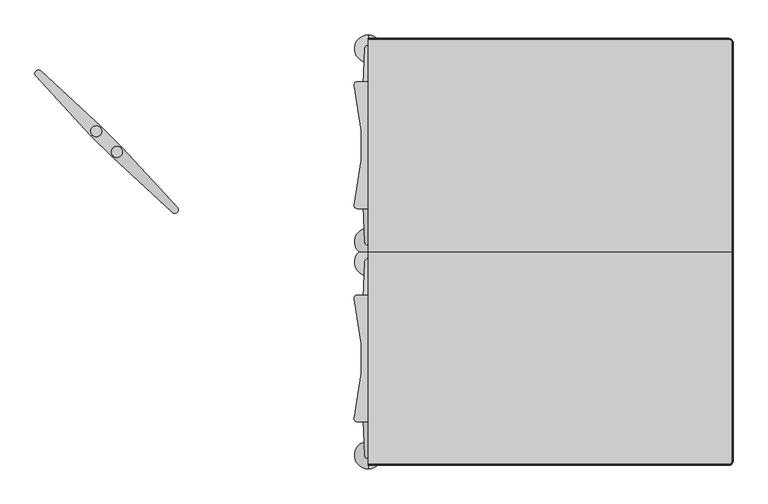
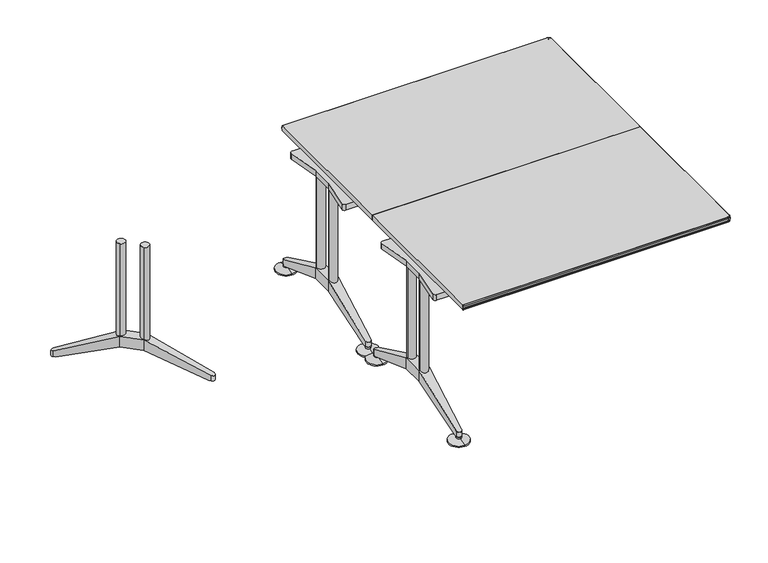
"""IFC4 building model written with IfcOpenShell, lengths in millimetres: furniture geometry, Furniture_Wilkhahn_620-46_Logon Table-Rectangle : Logon 620/46_2650L x 1550W x 730H."""

from ifc_helpers import new_model, si_unit, point, frame, frame_2d, origin, place, context, project, spatial, polyline, circle_curve, ellipse_curve, trimmed, segment, composite_curve, outline, extrude, source, transform, mapped, element, save
from ifc_brep_helpers import plane_surface, cylinder_surface, revolved_surface, advanced_brep


def furniture_0d1d803a(model_context):
    return source(origin(), model_context, "Body", "SolidModel", [
        advanced_brep(
        [(-895.079077, 406.3855705, 140.0), (-970.0323958, 481.3388893, 140.0), (-970.0323958, 481.3388893, 195.0), (-895.079077, 406.3855705, 195.0), (-930.4344161, 371.0302315, 195.0), (-1005.3877349, 445.9835503, 195.0), (-1005.3877349, 445.9835503, 140.0), (-930.4344161, 371.0302315, 140.0), (-720.7378823, 177.6069939, 27.0), (-701.6558394, 196.6890367, 27.0), (-693.1903453, 187.5113144, 27.0), (-693.5536444, 169.5047988, 27.0), (-711.5601599, 169.1414998, 27.0), (-711.5601599, 169.1414998, 56.4159205), (-693.5536444, 169.5047988, 50.6048844), (-693.1903453, 187.5113144, 56.4159205), (-1207.2764666, 664.8578064, 56.4159205), (-1207.2764666, 664.8578064, 27.0), (-1198.8109725, 655.6800841, 27.0), (-1188.906652, 683.227621, 27.0), (-1188.906652, 683.227621, 56.4159205), (-1179.7289296, 674.7621269, 27.0), (-1206.9131675, 682.864322, 27.0), (-1206.9131675, 682.864322, 50.6048844)],
        [
            (0, 1),
            (1, 2),
            (2, 3),
            (3, 0),
            (4, 5),
            (5, 6),
            (6, 7),
            (7, 4),
            (8, 9),
            (9, 10),
            (10, 11, circle_curve(frame((-702.7460326, 178.697187, 27.0), z_axis=(0.0, 0.0, -1.0), x_axis=(-0.707106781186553, -0.7071067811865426, 0.0)), 13.0)),
            (11, 12, circle_curve(frame((-702.7460326, 178.697187, 27.0), z_axis=(0.0, 0.0, -1.0), x_axis=(-0.707106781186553, -0.7071067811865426, 0.0)), 13.0)),
            (12, 8),
            (3, 4),
            (4, 13),
            (13, 14, ellipse_curve(frame((-702.7460326, 178.697187, 56.6601634), z_axis=(0.29856403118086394, -0.2985640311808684, 0.9064871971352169), x_axis=(0.6409832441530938, -0.6409832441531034, -0.42223330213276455)), 14.341074, 13.0)),
            (14, 15, ellipse_curve(frame((-702.7460326, 178.697187, 56.6601634), z_axis=(0.29856403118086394, -0.2985640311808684, 0.9064871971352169), x_axis=(0.6409832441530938, -0.6409832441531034, -0.42223330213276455)), 14.341074, 13.0)),
            (15, 3),
            (7, 0),
            (0, 9),
            (8, 7),
            (16, 17),
            (17, 18),
            (18, 6),
            (5, 16),
            (19, 20),
            (20, 2),
            (1, 21),
            (21, 19),
            (2, 5),
            (6, 1),
            (19, 22, circle_curve(frame((-1197.7207794, 673.6719338, 27.0), z_axis=(0.0, 0.0, 1.0), x_axis=(-0.707106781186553, -0.7071067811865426, 0.0)), 13.0)),
            (22, 17, circle_curve(frame((-1197.7207794, 673.6719338, 27.0), z_axis=(0.0, 0.0, 1.0), x_axis=(-0.707106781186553, -0.7071067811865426, 0.0)), 13.0)),
            (16, 23, ellipse_curve(frame((-1197.7207794, 673.6719338, 56.6601634), z_axis=(0.2985640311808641, -0.2985640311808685, -0.9064871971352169), x_axis=(-0.6409832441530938, 0.6409832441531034, -0.4222333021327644)), 14.341074, 13.0)),
            (23, 20, ellipse_curve(frame((-1197.7207794, 673.6719338, 56.6601634), z_axis=(0.2985640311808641, -0.2985640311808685, -0.9064871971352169), x_axis=(-0.6409832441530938, 0.6409832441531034, -0.4222333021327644)), 14.341074, 13.0)),
            (15, 10),
            (13, 12),
            (21, 18),
        ],
        [
            plane_surface(frame((-687.7175668, 199.0240602, 27.0), z_axis=(0.7071067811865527, 0.7071067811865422, 0.0), x_axis=(-0.7071067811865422, 0.7071067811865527, 0.0))),
            plane_surface(frame((-723.0729058, 163.6687212, 27.0), z_axis=(-0.7071067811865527, -0.7071067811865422, 0.0), x_axis=(0.7071067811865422, -0.7071067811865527, 0.0))),
            plane_surface(frame((-728.8745304, 169.4703458, 27.0), z_axis=(0.0, 0.0, -0.9999999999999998), x_axis=(0.7071067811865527, 0.7071067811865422, 0.0))),
            plane_surface(frame((-711.2313139, 151.8271293, 50.6048844), z_axis=(0.29856403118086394, -0.2985640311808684, 0.9064871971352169), x_axis=(0.7071067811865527, 0.7071067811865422, 0.0))),
            plane_surface(frame((-930.4344161, 371.0302315, 140.0), z_axis=(-0.2605848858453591, 0.26058488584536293, -0.9296187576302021), x_axis=(0.7071067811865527, 0.7071067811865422, 0.0))),
            plane_surface(frame((-1005.3877349, 445.9835503, 195.0), z_axis=(-0.7350528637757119, -0.6780097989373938, 0.0), x_axis=(0.0, 0.0, -1.0))),
            plane_surface(frame((-1188.906652, 683.227621, 195.0), z_axis=(0.6780097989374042, 0.7350528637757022, 0.0), x_axis=(0.0, 0.0, -1.0))),
            plane_surface(frame((-930.4344161, 371.0302315, 195.0), z_axis=(0.0, 0.0, 0.9999999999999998), x_axis=(0.7071067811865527, 0.7071067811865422, 0.0))),
            plane_surface(frame((-1005.3877349, 445.9835503, 140.0), z_axis=(0.0, 0.0, -0.9999999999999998), x_axis=(0.7071067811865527, 0.7071067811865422, 0.0))),
            cylinder_surface(frame((-1197.7207794, 673.6719338, 0.0), z_axis=(0.0, 0.0, -1.0), x_axis=(-0.707106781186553, -0.7071067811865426, 0.0)), 13.0),
            plane_surface(frame((-895.079077, 406.3855705, 195.0), z_axis=(0.735052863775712, 0.6780097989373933, 0.0), x_axis=(0.0, 0.0, -1.0))),
            cylinder_surface(frame((-702.7460326, 178.697187, -14.190167), z_axis=(0.0, 0.0, -1.0), x_axis=(-0.707106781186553, -0.7071067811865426, 0.0)), 13.0),
            plane_surface(frame((-711.5601599, 169.1414998, 195.0), z_axis=(-0.6780097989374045, -0.735052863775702, 0.0), x_axis=(0.0, 0.0, -1.0))),
            plane_surface(frame((-1005.3877349, 445.9835503, 195.0), z_axis=(-0.2985640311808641, 0.2985640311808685, 0.9064871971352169), x_axis=(0.7071067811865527, 0.7071067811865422, 0.0))),
            plane_surface(frame((-1224.5908371, 665.1866524, 27.0), z_axis=(0.0, 0.0, -0.9999999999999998), x_axis=(0.7071067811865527, 0.7071067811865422, 0.0))),
            plane_surface(frame((-1206.9476206, 647.543436, 27.0), z_axis=(0.26058488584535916, -0.26058488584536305, -0.9296187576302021), x_axis=(0.7071067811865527, 0.7071067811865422, 0.0))),
        ],
        [
            (0, [[1, 2, 3, 4]]),
            (1, [[5, 6, 7, 8]]),
            (2, [[9, 10, 11, 12, 13]]),
            (3, [[14, 15, 16, 17, 18]]),
            (4, [[19, 20, -9, 21]]),
            (5, [[22, 23, 24, -6, 25]]),
            (6, [[26, 27, -2, 28, 29]]),
            (7, [[-3, 30, -5, -14]]),
            (8, [[-1, -19, -7, 31]]),
            (9, [[-26, 32, 33, -22, 34, 35]]),
            (10, [[36, -10, -20, -4, -18]]),
            (11, [[-36, -17, -16, 37, -12, -11]]),
            (12, [[-37, -15, -8, -21, -13]]),
            (13, [[-30, -27, -35, -34, -25]]),
            (14, [[38, -23, -33, -32, -29]]),
            (15, [[-31, -24, -38, -28]]),
        ],
    ),
        extrude(outline(composite_curve([segment(trimmed(circle_curve(frame_2d((-987.7100654, 463.6612198)), 20.0), [point((-973.5679298, 477.8033554))], [point((-1001.852201, 449.5190842))], False, "CARTESIAN"), True, "CONTINUOUS"), segment(trimmed(circle_curve(frame_2d((-987.7100654, 463.6612198)), 20.0), [point((-1001.852201, 449.5190842))], [point((-973.5679298, 477.8033554))], False, "CARTESIAN"), True, "CONTINUOUS")], self_intersect=False)), frame((0.0, 0.0, 140.0), z_axis=(0.0, 0.0, 1.0), x_axis=(1.0, 0.0, 0.0)), (0.0, 0.0, 1.0), 535.0),
        extrude(outline(composite_curve([segment(trimmed(circle_curve(frame_2d((-912.7567466, 388.707901)), 20.0), [point((-898.6146109, 402.8500366))], [point((-926.8988822, 374.5657654))], False, "CARTESIAN"), True, "CONTINUOUS"), segment(trimmed(circle_curve(frame_2d((-912.7567466, 388.707901)), 20.0), [point((-926.8988822, 374.5657654))], [point((-898.6146109, 402.8500366))], False, "CARTESIAN"), True, "CONTINUOUS")], self_intersect=False)), frame((0.0, 0.0, 140.0), z_axis=(0.0, 0.0, 1.0), x_axis=(1.0, 0.0, 0.0)), (0.0, 0.0, 1.0), 535.0),
        advanced_brep(
        [(0.0, 62.9267924, 0.0), (0.0, 12.9267924, 0.0), (0.0, 112.9267924, 0.0), (0.0, 12.9267924, 6.0), (0.0, 112.9267924, 6.0), (0.0, 50.4511544, 17.0), (0.0, 75.4024304, 17.0), (0.0, 50.4511544, 27.0), (0.0, 75.4024304, 27.0), (0.0, 62.9267924, 27.0)],
        [
            (0, 1),
            (1, 2, circle_curve(frame((0.0, 62.9267924, 0.0), z_axis=(0.0, 0.0, -1.0), x_axis=(0.0, -1.0000000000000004, 0.0)), 50.0)),
            (2, 0),
            (2, 1, circle_curve(frame((0.0, 62.9267924, 0.0), z_axis=(0.0, 0.0, -1.0), x_axis=(0.0, -1.0000000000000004, 0.0)), 50.0)),
            (1, 3),
            (3, 4, circle_curve(frame((0.0, 62.9267924, 6.0), z_axis=(0.0, 0.0, -1.0), x_axis=(0.0, -1.0000000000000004, 0.0)), 50.0)),
            (4, 2),
            (4, 3, circle_curve(frame((0.0, 62.9267924, 6.0), z_axis=(0.0, 0.0, -1.0), x_axis=(0.0, -1.0000000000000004, 0.0)), 50.0)),
            (3, 5),
            (5, 6, circle_curve(frame((0.0, 62.9267924, 17.0), z_axis=(0.0, 0.0, -1.0), x_axis=(0.0, -1.0000000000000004, 0.0)), 12.475638)),
            (6, 4),
            (6, 5, circle_curve(frame((0.0, 62.9267924, 17.0), z_axis=(0.0, 0.0, -1.0), x_axis=(0.0, -1.0000000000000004, 0.0)), 12.475638)),
            (5, 7),
            (7, 8, circle_curve(frame((0.0, 62.9267924, 27.0), z_axis=(0.0, 0.0, -1.0), x_axis=(0.0, -1.0000000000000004, 0.0)), 12.475638)),
            (8, 6),
            (8, 7, circle_curve(frame((0.0, 62.9267924, 27.0), z_axis=(0.0, 0.0, -1.0), x_axis=(0.0, -1.0000000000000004, 0.0)), 12.475638)),
            (7, 9),
            (9, 8),
        ],
        [
            plane_surface(frame((0.0, 62.9267924, 0.0), z_axis=(0.0, 0.0, -1.0), x_axis=(0.0, -1.0, 0.0))),
            cylinder_surface(frame((0.0, 62.9267924, 27.0), z_axis=(0.0, 0.0, -1.0), x_axis=(0.0, -1.0000000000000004, 0.0)), 50.0),
            revolved_surface(polyline([(0.0, 50.4511544, 17.0), (0.0, 12.9267924, 6.0)]), (0.0, 62.9267924, 27.0), (0.0, 0.0, -1.0)),
            cylinder_surface(frame((0.0, 62.9267924, 27.0), z_axis=(0.0, 0.0, -1.0), x_axis=(0.0, -1.0000000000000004, 0.0)), 12.475638),
            plane_surface(frame((0.0, 62.9267924, 27.0), z_axis=(0.0, 0.0, 1.0), x_axis=(0.0, -1.0, 0.0))),
        ],
        [
            (0, [[1, 2, 3]]),
            (0, [[-3, 4, -1]]),
            (1, [[-2, 5, 6, 7]]),
            (1, [[-4, -7, 8, -5]]),
            (2, [[-6, 9, 10, 11]]),
            (2, [[-8, -11, 12, -9]]),
            (3, [[-10, 13, 14, 15]]),
            (3, [[-12, -15, 16, -13]]),
            (4, [[-14, 17, 18]]),
            (4, [[-16, -18, -17]]),
        ],
    ),
        advanced_brep(
        [(0.0, 713.9755164, 0.0), (0.0, 813.9755164, 0.0), (0.0, 763.9755164, 0.0), (0.0, 713.9755164, 6.0), (0.0, 813.9755164, 6.0), (0.0, 751.4998784, 17.0), (0.0, 776.4511544, 17.0), (0.0, 751.4998784, 27.0), (0.0, 776.4511544, 27.0), (0.0, 763.9755164, 27.0)],
        [
            (0, 1, circle_curve(frame((0.0, 763.9755164, 0.0), z_axis=(0.0, 0.0, -1.0), x_axis=(0.0, 1.0000000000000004, 0.0)), 50.0)),
            (1, 2),
            (2, 0),
            (1, 0, circle_curve(frame((0.0, 763.9755164, 0.0), z_axis=(0.0, 0.0, -1.0), x_axis=(0.0, 1.0000000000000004, 0.0)), 50.0)),
            (3, 4, circle_curve(frame((0.0, 763.9755164, 6.0), z_axis=(0.0, 0.0, -1.0), x_axis=(0.0, 1.0000000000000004, 0.0)), 50.0)),
            (4, 1),
            (0, 3),
            (4, 3, circle_curve(frame((0.0, 763.9755164, 6.0), z_axis=(0.0, 0.0, -1.0), x_axis=(0.0, 1.0000000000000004, 0.0)), 50.0)),
            (5, 6, circle_curve(frame((0.0, 763.9755164, 17.0), z_axis=(0.0, 0.0, -1.0), x_axis=(0.0, 1.0000000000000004, 0.0)), 12.475638)),
            (6, 4),
            (3, 5),
            (6, 5, circle_curve(frame((0.0, 763.9755164, 17.0), z_axis=(0.0, 0.0, -1.0), x_axis=(0.0, 1.0000000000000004, 0.0)), 12.475638)),
            (7, 8, circle_curve(frame((0.0, 763.9755164, 27.0), z_axis=(0.0, 0.0, -1.0), x_axis=(0.0, 1.0000000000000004, 0.0)), 12.475638)),
            (8, 6),
            (5, 7),
            (8, 7, circle_curve(frame((0.0, 763.9755164, 27.0), z_axis=(0.0, 0.0, -1.0), x_axis=(0.0, 1.0000000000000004, 0.0)), 12.475638)),
            (9, 8),
            (7, 9),
        ],
        [
            plane_surface(frame((0.0, 763.9755164, 0.0), z_axis=(0.0, 0.0, -1.0), x_axis=(0.0, 1.0, 0.0))),
            cylinder_surface(frame((0.0, 763.9755164, 27.0), z_axis=(0.0, 0.0, 1.0), x_axis=(0.0, 1.0000000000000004, 0.0)), 50.0),
            revolved_surface(polyline([(0.0, 813.9755164, 6.0), (0.0, 776.4511544, 17.0)]), (0.0, 763.9755164, 27.0), (0.0, 0.0, 1.0)),
            cylinder_surface(frame((0.0, 763.9755164, 27.0), z_axis=(0.0, 0.0, 1.0), x_axis=(0.0, 1.0000000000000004, 0.0)), 12.475638),
            plane_surface(frame((0.0, 763.9755164, 27.0), z_axis=(0.0, 0.0, 1.0), x_axis=(0.0, 1.0, 0.0))),
        ],
        [
            (0, [[1, 2, 3]]),
            (0, [[4, -3, -2]]),
            (1, [[5, 6, -1, 7]]),
            (1, [[8, -7, -4, -6]]),
            (2, [[9, 10, -5, 11]]),
            (2, [[12, -11, -8, -10]]),
            (3, [[13, 14, -9, 15]]),
            (3, [[16, -15, -12, -14]]),
            (4, [[17, -13, 18]]),
            (4, [[-18, -16, -17]]),
        ],
    ),
        extrude(outline(composite_curve([segment(polyline([(25.0, 360.4511544), (51.7160071, 197.3913867)]), True, "CONTINUOUS"), segment(trimmed(circle_curve(frame_2d((39.8739001, 195.4511544)), 12.0), [point((51.7160071, 197.3913867))], [point((39.8739001, 183.4511544))], False, "CARTESIAN"), True, "CONTINUOUS"), segment(polyline([(39.8739001, 183.4511544), (-39.8739001, 183.4511544)]), True, "CONTINUOUS"), segment(trimmed(circle_curve(frame_2d((-39.8739001, 195.4511544)), 12.0), [point((-39.8739001, 183.4511544))], [point((-51.7160071, 197.3913867))], False, "CARTESIAN"), True, "CONTINUOUS"), segment(polyline([(-51.7160071, 197.3913867), (-25.0, 360.4511544), (-25.0, 466.4511544), (-51.7160071, 629.5109222)]), True, "CONTINUOUS"), segment(trimmed(circle_curve(frame_2d((-39.8739001, 631.4511544)), 12.0), [point((-51.7160071, 629.5109222))], [point((-39.8739001, 643.4511544))], False, "CARTESIAN"), True, "CONTINUOUS"), segment(polyline([(-39.8739001, 643.4511544), (39.8739001, 643.4511544)]), True, "CONTINUOUS"), segment(trimmed(circle_curve(frame_2d((39.8739001, 631.4511544)), 12.0), [point((39.8739001, 643.4511544))], [point((51.7160071, 629.5109222))], False, "CARTESIAN"), True, "CONTINUOUS"), segment(polyline([(51.7160071, 629.5109222), (25.0, 466.4511544), (25.0, 360.4511544)]), True, "CONTINUOUS")], self_intersect=False)), frame((0.0, 0.0, 675.0), z_axis=(0.0, 0.0, 1.0), x_axis=(1.0, 0.0, 0.0)), (0.0, 0.0, 1.0), 29.0),
        advanced_brep(
        [(-25.0, 466.4511544, 140.0), (-25.0, 360.4511544, 140.0), (-25.0, 360.4511544, 195.0), (-25.0, 466.4511544, 195.0), (25.0, 466.4511544, 195.0), (25.0, 360.4511544, 195.0), (25.0, 360.4511544, 140.0), (25.0, 466.4511544, 140.0), (13.4930419, 751.4998784, 27.0), (-13.4930419, 751.4998784, 27.0), (-12.9894205, 763.9755164, 27.0), (0.0, 776.4511544, 27.0), (12.9894205, 763.9755164, 27.0), (12.9894205, 763.9755164, 56.4159205), (0.0, 776.4511544, 50.6048844), (-12.9894205, 763.9755164, 56.4159205), (12.9894205, 62.9267924, 56.4159205), (12.9894205, 62.9267924, 27.0), (13.4930419, 75.4024304, 27.0), (-12.9894205, 62.9267924, 27.0), (-12.9894205, 62.9267924, 56.4159205), (-13.4930419, 75.4024304, 27.0), (0.0, 50.4511544, 27.0), (0.0, 50.4511544, 50.6048844)],
        [
            (0, 1),
            (1, 2),
            (2, 3),
            (3, 0),
            (4, 5),
            (5, 6),
            (6, 7),
            (7, 4),
            (8, 9),
            (9, 10),
            (10, 11, circle_curve(frame((0.0, 763.4511544, 27.0), z_axis=(0.0, 0.0, -1.0), x_axis=(1.0000000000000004, 0.0, 0.0)), 13.0)),
            (11, 12, circle_curve(frame((0.0, 763.4511544, 27.0), z_axis=(0.0, 0.0, -1.0), x_axis=(1.0000000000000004, 0.0, 0.0)), 13.0)),
            (12, 8),
            (3, 4),
            (4, 13),
            (13, 14, ellipse_curve(frame((0.0, 763.4511544, 56.6601634), z_axis=(0.0, 0.42223330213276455, 0.9064871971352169), x_axis=(0.0, 0.9064871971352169, -0.42223330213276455)), 14.341074, 13.0)),
            (14, 15, ellipse_curve(frame((0.0, 763.4511544, 56.6601634), z_axis=(0.0, 0.42223330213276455, 0.9064871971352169), x_axis=(0.0, 0.9064871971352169, -0.42223330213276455)), 14.341074, 13.0)),
            (15, 3),
            (7, 0),
            (0, 9),
            (8, 7),
            (16, 17),
            (17, 18),
            (18, 6),
            (5, 16),
            (19, 20),
            (20, 2),
            (1, 21),
            (21, 19),
            (2, 5),
            (6, 1),
            (19, 22, circle_curve(frame((0.0, 63.4511544, 27.0), z_axis=(0.0, 0.0, 1.0), x_axis=(1.0000000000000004, 0.0, 0.0)), 13.0)),
            (22, 17, circle_curve(frame((0.0, 63.4511544, 27.0), z_axis=(0.0, 0.0, 1.0), x_axis=(1.0000000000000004, 0.0, 0.0)), 13.0)),
            (16, 23, ellipse_curve(frame((0.0, 63.4511544, 56.6601634), z_axis=(0.0, 0.42223330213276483, -0.906487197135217), x_axis=(0.0, -0.906487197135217, -0.42223330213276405)), 14.341074, 13.0)),
            (23, 20, ellipse_curve(frame((0.0, 63.4511544, 56.6601634), z_axis=(0.0, 0.42223330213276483, -0.906487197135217), x_axis=(0.0, -0.906487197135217, -0.42223330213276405)), 14.341074, 13.0)),
            (15, 10),
            (13, 12),
            (21, 18),
        ],
        [
            plane_surface(frame((-25.0, 759.7046146, 27.0), z_axis=(-1.0, 0.0, 0.0), x_axis=(0.0, -1.0, 0.0))),
            plane_surface(frame((25.0, 759.7046146, 27.0), z_axis=(1.0, 0.0, 0.0), x_axis=(0.0, 1.0, 0.0))),
            plane_surface(frame((25.0, 751.4998784, 27.0), z_axis=(0.0, 0.0, -1.0), x_axis=(-1.0, 0.0, 0.0))),
            plane_surface(frame((25.0, 776.4511544, 50.6048844), z_axis=(0.0, 0.42223330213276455, 0.9064871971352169), x_axis=(-1.0, 0.0, 0.0))),
            plane_surface(frame((25.0, 466.4511544, 140.0), z_axis=(0.0, -0.36852267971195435, -0.9296187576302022), x_axis=(-1.0, 0.0, 0.0))),
            plane_surface(frame((25.0, 360.4511544, 195.0), z_axis=(0.9991861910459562, -0.04033553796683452, 0.0), x_axis=(0.0, 0.0, -1.0))),
            plane_surface(frame((-12.9894205, 62.9267924, 195.0), z_axis=(-0.9991861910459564, -0.0403355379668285, 0.0), x_axis=(0.0, 0.0, -1.0))),
            plane_surface(frame((25.0, 466.4511544, 195.0), z_axis=(0.0, 0.0, 1.0), x_axis=(-1.0, 0.0, 0.0))),
            plane_surface(frame((25.0, 360.4511544, 140.0), z_axis=(0.0, 0.0, -1.0), x_axis=(-1.0, 0.0, 0.0))),
            cylinder_surface(frame((0.0, 63.4511544, 0.0), z_axis=(0.0, 0.0, -1.0), x_axis=(1.0000000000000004, 0.0, 0.0)), 13.0),
            plane_surface(frame((-25.0, 466.4511544, 195.0), z_axis=(-0.9991861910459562, 0.040335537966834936, 0.0), x_axis=(0.0, 0.0, -1.0))),
            cylinder_surface(frame((0.0, 763.4511544, -14.190167), z_axis=(0.0, 0.0, -1.0), x_axis=(1.0000000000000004, 0.0, 0.0)), 13.0),
            plane_surface(frame((12.9894205, 763.9755164, 195.0), z_axis=(0.9991861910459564, 0.04033553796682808, 0.0), x_axis=(0.0, 0.0, -1.0))),
            plane_surface(frame((25.0, 360.4511544, 195.0), z_axis=(0.0, -0.4222333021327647, 0.9064871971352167), x_axis=(-1.0, 0.0, 0.0))),
            plane_surface(frame((25.0, 50.4511544, 27.0), z_axis=(0.0, 0.0, -1.0), x_axis=(-1.0, 0.0, 0.0))),
            plane_surface(frame((25.0, 75.4024304, 27.0), z_axis=(0.0, 0.36852267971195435, -0.929618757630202), x_axis=(-1.0, 0.0, 0.0))),
        ],
        [
            (0, [[1, 2, 3, 4]]),
            (1, [[5, 6, 7, 8]]),
            (2, [[9, 10, 11, 12, 13]]),
            (3, [[14, 15, 16, 17, 18]]),
            (4, [[19, 20, -9, 21]]),
            (5, [[22, 23, 24, -6, 25]]),
            (6, [[26, 27, -2, 28, 29]]),
            (7, [[-3, 30, -5, -14]]),
            (8, [[-1, -19, -7, 31]]),
            (9, [[-26, 32, 33, -22, 34, 35]]),
            (10, [[36, -10, -20, -4, -18]]),
            (11, [[-36, -17, -16, 37, -12, -11]]),
            (12, [[-37, -15, -8, -21, -13]]),
            (13, [[-30, -27, -35, -34, -25]]),
            (14, [[38, -23, -33, -32, -29]]),
            (15, [[-31, -24, -38, -28]]),
        ],
    ),
        extrude(outline(composite_curve([segment(trimmed(circle_curve(frame_2d((0.0, 360.4511544)), 20.0), [point((-20.0, 360.4511544))], [point((20.0, 360.4511544))], False, "CARTESIAN"), True, "CONTINUOUS"), segment(trimmed(circle_curve(frame_2d((0.0, 360.4511544)), 20.0), [point((20.0, 360.4511544))], [point((-20.0, 360.4511544))], False, "CARTESIAN"), True, "CONTINUOUS")], self_intersect=False)), frame((0.0, 0.0, 140.0), z_axis=(0.0, 0.0, 1.0), x_axis=(1.0, 0.0, 0.0)), (0.0, 0.0, 1.0), 535.0),
        extrude(outline(composite_curve([segment(trimmed(circle_curve(frame_2d((0.0, 466.4511544)), 20.0), [point((-20.0, 466.4511544))], [point((20.0, 466.4511544))], False, "CARTESIAN"), True, "CONTINUOUS"), segment(trimmed(circle_curve(frame_2d((0.0, 466.4511544)), 20.0), [point((20.0, 466.4511544))], [point((-20.0, 466.4511544))], False, "CARTESIAN"), True, "CONTINUOUS")], self_intersect=False)), frame((0.0, 0.0, 140.0), z_axis=(0.0, 0.0, 1.0), x_axis=(1.0, 0.0, 0.0)), (0.0, 0.0, 1.0), 535.0),
        advanced_brep(
        [(0.0, -11.0244836, 0.0), (0.0, -61.0244836, 0.0), (0.0, 38.9755164, 0.0), (0.0, -61.0244836, 6.0), (0.0, 38.9755164, 6.0), (0.0, -23.5001216, 17.0), (0.0, 1.4511544, 17.0), (0.0, -23.5001216, 27.0), (0.0, 1.4511544, 27.0), (0.0, -11.0244836, 27.0)],
        [
            (0, 1),
            (1, 2, circle_curve(frame((0.0, -11.0244836, 0.0), z_axis=(0.0, 0.0, -1.0), x_axis=(0.0, 1.0000000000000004, 0.0)), 50.0)),
            (2, 0),
            (2, 1, circle_curve(frame((0.0, -11.0244836, 0.0), z_axis=(0.0, 0.0, -1.0), x_axis=(0.0, 1.0000000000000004, 0.0)), 50.0)),
            (1, 3),
            (3, 4, circle_curve(frame((0.0, -11.0244836, 6.0), z_axis=(0.0, 0.0, -1.0), x_axis=(0.0, 1.0000000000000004, 0.0)), 50.0)),
            (4, 2),
            (4, 3, circle_curve(frame((0.0, -11.0244836, 6.0), z_axis=(0.0, 0.0, -1.0), x_axis=(0.0, 1.0000000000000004, 0.0)), 50.0)),
            (3, 5),
            (5, 6, circle_curve(frame((0.0, -11.0244836, 17.0), z_axis=(0.0, 0.0, -1.0), x_axis=(0.0, 1.0000000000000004, 0.0)), 12.475638)),
            (6, 4),
            (6, 5, circle_curve(frame((0.0, -11.0244836, 17.0), z_axis=(0.0, 0.0, -1.0), x_axis=(0.0, 1.0000000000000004, 0.0)), 12.475638)),
            (5, 7),
            (7, 8, circle_curve(frame((0.0, -11.0244836, 27.0), z_axis=(0.0, 0.0, -1.0), x_axis=(0.0, 1.0000000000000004, 0.0)), 12.475638)),
            (8, 6),
            (8, 7, circle_curve(frame((0.0, -11.0244836, 27.0), z_axis=(0.0, 0.0, -1.0), x_axis=(0.0, 1.0000000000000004, 0.0)), 12.475638)),
            (7, 9),
            (9, 8),
        ],
        [
            plane_surface(frame((0.0, -11.0244836, 0.0), z_axis=(0.0, 0.0, -1.0), x_axis=(0.0, 1.0, 0.0))),
            cylinder_surface(frame((0.0, -11.0244836, 27.0), z_axis=(0.0, 0.0, -1.0), x_axis=(0.0, 1.0000000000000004, 0.0)), 50.0),
            revolved_surface(polyline([(0.0, 1.4511544, 17.0), (0.0, 38.9755164, 6.0)]), (0.0, -11.0244836, 27.0), (0.0, 0.0, -1.0)),
            cylinder_surface(frame((0.0, -11.0244836, 27.0), z_axis=(0.0, 0.0, -1.0), x_axis=(0.0, 1.0000000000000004, 0.0)), 12.475638),
            plane_surface(frame((0.0, -11.0244836, 27.0), z_axis=(0.0, 0.0, 1.0), x_axis=(0.0, 1.0, 0.0))),
        ],
        [
            (0, [[1, 2, 3]]),
            (0, [[-3, 4, -1]]),
            (1, [[5, 6, 7, -2]]),
            (1, [[-7, 8, -5, -4]]),
            (2, [[9, 10, 11, -6]]),
            (2, [[-11, 12, -9, -8]]),
            (3, [[13, 14, 15, -10]]),
            (3, [[-15, 16, -13, -12]]),
            (4, [[17, 18, -14]]),
            (4, [[-18, -17, -16]]),
        ],
    ),
        advanced_brep(
        [(0.0, -662.0732076, 0.0), (0.0, -712.0732076, 0.0), (0.0, -762.0732076, 0.0), (0.0, -662.0732076, 6.0), (0.0, -762.0732076, 6.0), (0.0, -699.5975696, 17.0), (0.0, -724.5488456, 17.0), (0.0, -699.5975696, 27.0), (0.0, -724.5488456, 27.0), (0.0, -712.0732076, 27.0)],
        [
            (0, 1),
            (1, 2),
            (2, 0, circle_curve(frame((0.0, -712.0732076, 0.0), z_axis=(0.0, 0.0, -1.0), x_axis=(0.0, -1.0000000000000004, 0.0)), 50.0)),
            (0, 2, circle_curve(frame((0.0, -712.0732076, 0.0), z_axis=(0.0, 0.0, -1.0), x_axis=(0.0, -1.0000000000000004, 0.0)), 50.0)),
            (3, 0),
            (2, 4),
            (4, 3, circle_curve(frame((0.0, -712.0732076, 6.0), z_axis=(0.0, 0.0, -1.0), x_axis=(0.0, -1.0000000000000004, 0.0)), 50.0)),
            (3, 4, circle_curve(frame((0.0, -712.0732076, 6.0), z_axis=(0.0, 0.0, -1.0), x_axis=(0.0, -1.0000000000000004, 0.0)), 50.0)),
            (5, 3),
            (4, 6),
            (6, 5, circle_curve(frame((0.0, -712.0732076, 17.0), z_axis=(0.0, 0.0, -1.0), x_axis=(0.0, -1.0000000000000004, 0.0)), 12.475638)),
            (5, 6, circle_curve(frame((0.0, -712.0732076, 17.0), z_axis=(0.0, 0.0, -1.0), x_axis=(0.0, -1.0000000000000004, 0.0)), 12.475638)),
            (7, 5),
            (6, 8),
            (8, 7, circle_curve(frame((0.0, -712.0732076, 27.0), z_axis=(0.0, 0.0, -1.0), x_axis=(0.0, -1.0000000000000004, 0.0)), 12.475638)),
            (7, 8, circle_curve(frame((0.0, -712.0732076, 27.0), z_axis=(0.0, 0.0, -1.0), x_axis=(0.0, -1.0000000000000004, 0.0)), 12.475638)),
            (9, 7),
            (8, 9),
        ],
        [
            plane_surface(frame((0.0, -712.0732076, 0.0), z_axis=(0.0, 0.0, -1.0), x_axis=(0.0, -1.0, 0.0))),
            cylinder_surface(frame((0.0, -712.0732076, 27.0), z_axis=(0.0, 0.0, 1.0), x_axis=(0.0, -1.0000000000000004, 0.0)), 50.0),
            revolved_surface(polyline([(0.0, -762.0732076, 6.0), (0.0, -724.5488456, 17.0)]), (0.0, -712.0732076, 27.0), (0.0, 0.0, 1.0)),
            cylinder_surface(frame((0.0, -712.0732076, 27.0), z_axis=(0.0, 0.0, 1.0), x_axis=(0.0, -1.0000000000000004, 0.0)), 12.475638),
            plane_surface(frame((0.0, -712.0732076, 27.0), z_axis=(0.0, 0.0, 1.0), x_axis=(0.0, -1.0, 0.0))),
        ],
        [
            (0, [[1, 2, 3]]),
            (0, [[-2, -1, 4]]),
            (1, [[5, -3, 6, 7]]),
            (1, [[-6, -4, -5, 8]]),
            (2, [[9, -7, 10, 11]]),
            (2, [[-10, -8, -9, 12]]),
            (3, [[13, -11, 14, 15]]),
            (3, [[-14, -12, -13, 16]]),
            (4, [[17, -15, 18]]),
            (4, [[-18, -16, -17]]),
        ],
    ),
        extrude(outline(composite_curve([segment(polyline([(25.0, -308.5488456), (25.0, -414.5488456), (51.7160071, -577.6086133)]), True, "CONTINUOUS"), segment(trimmed(circle_curve(frame_2d((39.8739001, -579.5488456)), 12.0), [point((51.7160071, -577.6086133))], [point((39.8739001, -591.5488456))], False, "CARTESIAN"), True, "CONTINUOUS"), segment(polyline([(39.8739001, -591.5488456), (-39.8739001, -591.5488456)]), True, "CONTINUOUS"), segment(trimmed(circle_curve(frame_2d((-39.8739001, -579.5488456)), 12.0), [point((-39.8739001, -591.5488456))], [point((-51.7160071, -577.6086133))], False, "CARTESIAN"), True, "CONTINUOUS"), segment(polyline([(-51.7160071, -577.6086133), (-25.0, -414.5488456), (-25.0, -308.5488456), (-51.7160071, -145.4890778)]), True, "CONTINUOUS"), segment(trimmed(circle_curve(frame_2d((-39.8739001, -143.5488456)), 12.0), [point((-51.7160071, -145.4890778))], [point((-39.8739001, -131.5488456))], False, "CARTESIAN"), True, "CONTINUOUS"), segment(polyline([(-39.8739001, -131.5488456), (39.8739001, -131.5488456)]), True, "CONTINUOUS"), segment(trimmed(circle_curve(frame_2d((39.8739001, -143.5488456)), 12.0), [point((39.8739001, -131.5488456))], [point((51.7160071, -145.4890778))], False, "CARTESIAN"), True, "CONTINUOUS"), segment(polyline([(51.7160071, -145.4890778), (25.0, -308.5488456)]), True, "CONTINUOUS")], self_intersect=False)), frame((0.0, 0.0, 675.0), z_axis=(0.0, 0.0, 1.0), x_axis=(1.0, 0.0, 0.0)), (0.0, 0.0, 1.0), 29.0),
        advanced_brep(
        [(-25.0, -414.5488456, 140.0), (-25.0, -414.5488456, 195.0), (-25.0, -308.5488456, 195.0), (-25.0, -308.5488456, 140.0), (25.0, -414.5488456, 195.0), (25.0, -414.5488456, 140.0), (25.0, -308.5488456, 140.0), (25.0, -308.5488456, 195.0), (13.4930419, -699.5975696, 27.0), (12.9894205, -712.0732076, 27.0), (0.0, -724.5488456, 27.0), (-12.9894205, -712.0732076, 27.0), (-13.4930419, -699.5975696, 27.0), (-12.9894205, -712.0732076, 56.4159205), (0.0, -724.5488456, 50.6048844), (12.9894205, -712.0732076, 56.4159205), (12.9894205, -11.0244836, 56.4159205), (13.4930419, -23.5001216, 27.0), (12.9894205, -11.0244836, 27.0), (-12.9894205, -11.0244836, 27.0), (-13.4930419, -23.5001216, 27.0), (-12.9894205, -11.0244836, 56.4159205), (0.0, 1.4511544, 50.6048844), (0.0, 1.4511544, 27.0)],
        [
            (0, 1),
            (1, 2),
            (2, 3),
            (3, 0),
            (4, 5),
            (5, 6),
            (6, 7),
            (7, 4),
            (8, 9),
            (9, 10, circle_curve(frame((0.0, -711.5488456, 27.0), z_axis=(0.0, 0.0, -1.0), x_axis=(1.0000000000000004, 0.0, 0.0)), 13.0)),
            (10, 11, circle_curve(frame((0.0, -711.5488456, 27.0), z_axis=(0.0, 0.0, -1.0), x_axis=(1.0000000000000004, 0.0, 0.0)), 13.0)),
            (11, 12),
            (12, 8),
            (1, 13),
            (13, 14, ellipse_curve(frame((0.0, -711.5488456, 56.6601634), z_axis=(0.0, -0.42223330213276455, 0.9064871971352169), x_axis=(0.0, -0.9064871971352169, -0.42223330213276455)), 14.341074, 13.0)),
            (14, 15, ellipse_curve(frame((0.0, -711.5488456, 56.6601634), z_axis=(0.0, -0.42223330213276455, 0.9064871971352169), x_axis=(0.0, -0.9064871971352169, -0.42223330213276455)), 14.341074, 13.0)),
            (15, 4),
            (4, 1),
            (5, 8),
            (12, 0),
            (0, 5),
            (16, 7),
            (6, 17),
            (17, 18),
            (18, 16),
            (19, 20),
            (20, 3),
            (2, 21),
            (21, 19),
            (7, 2),
            (3, 6),
            (21, 22, ellipse_curve(frame((0.0, -11.5488456, 56.6601634), z_axis=(0.0, -0.42223330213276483, -0.906487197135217), x_axis=(0.0, 0.906487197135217, -0.42223330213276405)), 14.341074, 13.0)),
            (22, 16, ellipse_curve(frame((0.0, -11.5488456, 56.6601634), z_axis=(0.0, -0.42223330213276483, -0.906487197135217), x_axis=(0.0, 0.906487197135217, -0.42223330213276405)), 14.341074, 13.0)),
            (18, 23, circle_curve(frame((0.0, -11.5488456, 27.0), z_axis=(0.0, 0.0, 1.0), x_axis=(1.0000000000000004, 0.0, 0.0)), 13.0)),
            (23, 19, circle_curve(frame((0.0, -11.5488456, 27.0), z_axis=(0.0, 0.0, 1.0), x_axis=(1.0000000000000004, 0.0, 0.0)), 13.0)),
            (11, 13),
            (9, 15),
            (17, 20),
        ],
        [
            plane_surface(frame((-25.0, -707.8023057, 27.0), z_axis=(-1.0, 0.0, 0.0), x_axis=(0.0, 1.0, 0.0))),
            plane_surface(frame((25.0, -707.8023057, 27.0), z_axis=(1.0, 0.0, 0.0), x_axis=(0.0, -1.0, 0.0))),
            plane_surface(frame((25.0, -699.5975696, 27.0), z_axis=(0.0, 0.0, -1.0), x_axis=(-1.0, 0.0, 0.0))),
            plane_surface(frame((25.0, -724.5488456, 50.6048844), z_axis=(0.0, -0.42223330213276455, 0.9064871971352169), x_axis=(-1.0, 0.0, 0.0))),
            plane_surface(frame((25.0, -414.5488456, 140.0), z_axis=(0.0, 0.36852267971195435, -0.9296187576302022), x_axis=(-1.0, 0.0, 0.0))),
            plane_surface(frame((25.0, -308.5488456, 195.0), z_axis=(0.9991861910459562, 0.04033553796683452, 0.0), x_axis=(0.0, 0.0, -1.0))),
            plane_surface(frame((-12.9894205, -11.0244836, 195.0), z_axis=(-0.9991861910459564, 0.0403355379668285, 0.0), x_axis=(0.0, 0.0, -1.0))),
            plane_surface(frame((25.0, -414.5488456, 195.0), z_axis=(0.0, 0.0, 1.0), x_axis=(-1.0, 0.0, 0.0))),
            plane_surface(frame((25.0, -308.5488456, 140.0), z_axis=(0.0, 0.0, -1.0), x_axis=(-1.0, 0.0, 0.0))),
            cylinder_surface(frame((0.0, -11.5488456, 0.0), z_axis=(0.0, 0.0, -1.0), x_axis=(1.0000000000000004, 0.0, 0.0)), 13.0),
            plane_surface(frame((-25.0, -414.5488456, 195.0), z_axis=(-0.9991861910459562, -0.040335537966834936, 0.0), x_axis=(0.0, 0.0, -1.0))),
            cylinder_surface(frame((0.0, -711.5488456, -14.190167), z_axis=(0.0, 0.0, -1.0), x_axis=(1.0000000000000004, 0.0, 0.0)), 13.0),
            plane_surface(frame((12.9894205, -712.0732076, 195.0), z_axis=(0.9991861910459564, -0.04033553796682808, 0.0), x_axis=(0.0, 0.0, -1.0))),
            plane_surface(frame((25.0, -308.5488456, 195.0), z_axis=(0.0, 0.4222333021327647, 0.9064871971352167), x_axis=(-1.0, 0.0, 0.0))),
            plane_surface(frame((25.0, 1.4511544, 27.0), z_axis=(0.0, 0.0, -1.0), x_axis=(-1.0, 0.0, 0.0))),
            plane_surface(frame((25.0, -23.5001216, 27.0), z_axis=(0.0, -0.36852267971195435, -0.929618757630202), x_axis=(-1.0, 0.0, 0.0))),
        ],
        [
            (0, [[1, 2, 3, 4]]),
            (1, [[5, 6, 7, 8]]),
            (2, [[9, 10, 11, 12, 13]]),
            (3, [[14, 15, 16, 17, 18]]),
            (4, [[19, -13, 20, 21]]),
            (5, [[22, -7, 23, 24, 25]]),
            (6, [[26, 27, -3, 28, 29]]),
            (7, [[-18, -8, 30, -2]]),
            (8, [[31, -6, -21, -4]]),
            (9, [[32, 33, -25, 34, 35, -29]]),
            (10, [[-14, -1, -20, -12, 36]]),
            (11, [[-11, -10, 37, -16, -15, -36]]),
            (12, [[-9, -19, -5, -17, -37]]),
            (13, [[-22, -33, -32, -28, -30]]),
            (14, [[-26, -35, -34, -24, 38]]),
            (15, [[-27, -38, -23, -31]]),
        ],
    ),
        extrude(outline(composite_curve([segment(trimmed(circle_curve(frame_2d((0.0, -308.5488456)), 20.0), [point((-20.0, -308.5488456))], [point((20.0, -308.5488456))], False, "CARTESIAN"), True, "CONTINUOUS"), segment(trimmed(circle_curve(frame_2d((0.0, -308.5488456)), 20.0), [point((20.0, -308.5488456))], [point((-20.0, -308.5488456))], False, "CARTESIAN"), True, "CONTINUOUS")], self_intersect=False)), frame((0.0, 0.0, 140.0), z_axis=(0.0, 0.0, 1.0), x_axis=(1.0, 0.0, 0.0)), (0.0, 0.0, 1.0), 535.0),
        extrude(outline(composite_curve([segment(trimmed(circle_curve(frame_2d((0.0, -414.5488456)), 20.0), [point((-20.0, -414.5488456))], [point((20.0, -414.5488456))], False, "CARTESIAN"), True, "CONTINUOUS"), segment(trimmed(circle_curve(frame_2d((0.0, -414.5488456)), 20.0), [point((20.0, -414.5488456))], [point((-20.0, -414.5488456))], False, "CARTESIAN"), True, "CONTINUOUS")], self_intersect=False)), frame((0.0, 0.0, 140.0), z_axis=(0.0, 0.0, 1.0), x_axis=(1.0, 0.0, 0.0)), (0.0, 0.0, 1.0), 535.0),
        advanced_brep(
        [(1321.0, 25.9511544, 730.0), (1321.0, 785.9511544, 730.0), (1310.0, 796.9511544, 730.0), (0.0, 796.9511544, 730.0), (0.0, 25.9511544, 730.0), (0.0, 796.9511544, 703.9999792), (1310.0, 796.9511544, 703.9999792), (1321.0, 785.9511544, 703.9999792), (1321.0, 25.9511544, 703.9999792), (0.0, 25.9511544, 703.9999792), (1322.5, 25.9511544, 705.4999792), (1322.5, 25.9511544, 712.6698626), (1322.5, 25.9511544, 721.3301166), (1322.5, 25.9511544, 728.5), (0.0, 798.4511544, 728.5), (0.0, 798.4511544, 721.3301166), (0.0, 798.4511544, 712.6698626), (0.0, 798.4511544, 705.4999792), (1310.0, 798.4511544, 705.4999792), (1310.0, 798.4511544, 712.6698626), (1310.0, 798.4511544, 721.3301166), (1310.0, 798.4511544, 728.5), (1322.5, 785.9511544, 705.4999792), (1322.5, 785.9511544, 712.6698626), (1322.5, 785.9511544, 721.3301166), (1322.5, 785.9511544, 728.5)],
        [
            (0, 1),
            (1, 2, circle_curve(frame((1310.0, 785.9511544, 730.0), z_axis=(0.0, 0.0, 1.0), x_axis=(0.0, 1.0, 0.0)), 11.0)),
            (2, 3),
            (3, 4),
            (4, 0),
            (5, 6),
            (6, 7, circle_curve(frame((1310.0, 785.9511544, 703.9999792), z_axis=(0.0, 0.0, -1.0), x_axis=(0.0, 1.0, 0.0)), 11.0)),
            (7, 8),
            (8, 9),
            (9, 5),
            (4, 9),
            (8, 10, circle_curve(frame((1321.0, 25.9511544, 705.4999792), z_axis=(0.0, -1.0, 0.0), x_axis=(1.0, 0.0, 0.0)), 1.5)),
            (10, 11),
            (11, 12, circle_curve(frame((1320.0, 25.9511544, 716.9999896), z_axis=(0.0, -1.0, 0.0), x_axis=(1.0, 0.0, 0.0)), 5.0)),
            (12, 13),
            (13, 0, circle_curve(frame((1321.0, 25.9511544, 728.5), z_axis=(0.0, -1.0, 0.0), x_axis=(1.0, 0.0, 0.0)), 1.5)),
            (3, 14, circle_curve(frame((0.0, 796.9511544, 728.5), z_axis=(-1.0, 0.0, 0.0), x_axis=(0.0, 1.0, 0.0)), 1.5)),
            (14, 15),
            (15, 16, circle_curve(frame((0.0, 795.9511544, 716.9999896), z_axis=(-1.0, 0.0, 0.0), x_axis=(0.0, 1.0, 0.0)), 5.0)),
            (16, 17),
            (17, 5, circle_curve(frame((0.0, 796.9511544, 705.4999792), z_axis=(-1.0, 0.0, 0.0), x_axis=(0.0, 1.0, 0.0)), 1.5)),
            (17, 18),
            (18, 6, circle_curve(frame((1310.0, 796.9511544, 705.4999792), z_axis=(-1.0, 0.0, 0.0), x_axis=(0.0, 1.0, 0.0)), 1.5)),
            (16, 19),
            (19, 18),
            (15, 20),
            (20, 19, circle_curve(frame((1310.0, 795.9511544, 716.9999896), z_axis=(-1.0, 0.0, 0.0), x_axis=(0.0, 1.0, 0.0)), 5.0)),
            (14, 21),
            (21, 20),
            (2, 21, circle_curve(frame((1310.0, 796.9511544, 728.5), z_axis=(-1.0, 0.0, 0.0), x_axis=(0.0, 1.0, 0.0)), 1.5)),
            (18, 22, circle_curve(frame((1310.0, 785.9511544, 705.4999792), z_axis=(0.0, 0.0, -1.0), x_axis=(0.0, 1.0, 0.0)), 12.5)),
            (22, 7, circle_curve(frame((1321.0, 785.9511544, 705.4999792), z_axis=(0.0, 1.0, 0.0), x_axis=(1.0, 0.0, 0.0)), 1.5)),
            (19, 23, circle_curve(frame((1310.0, 785.9511544, 712.6698626), z_axis=(0.0, 0.0, -1.0), x_axis=(0.0, 1.0, 0.0)), 12.5)),
            (23, 22),
            (20, 24, circle_curve(frame((1310.0, 785.9511544, 721.3301166), z_axis=(0.0, 0.0, -1.0), x_axis=(0.0, 1.0, 0.0)), 12.5)),
            (24, 23, circle_curve(frame((1320.0, 785.9511544, 716.9999896), z_axis=(0.0, 1.0, 0.0), x_axis=(1.0, 0.0, 0.0)), 5.0)),
            (21, 25, circle_curve(frame((1310.0, 785.9511544, 728.5), z_axis=(0.0, 0.0, -1.0), x_axis=(0.0, 1.0, 0.0)), 12.5)),
            (25, 24),
            (1, 25, circle_curve(frame((1321.0, 785.9511544, 728.5), z_axis=(0.0, 1.0, 0.0), x_axis=(1.0, 0.0, 0.0)), 1.5)),
            (22, 10),
            (23, 11),
            (24, 12),
            (25, 13),
        ],
        [
            plane_surface(frame((1300.0, 785.9511544, 730.0), z_axis=(0.0, 0.0, 1.0), x_axis=(0.0, -1.0, 0.0))),
            plane_surface(frame((1300.0, 785.9511544, 703.9999792), z_axis=(0.0, 0.0, -1.0), x_axis=(0.0, 1.0, 0.0))),
            plane_surface(frame((0.0, 25.9511544, 730.0), z_axis=(0.0, -1.0, 0.0), x_axis=(0.0, 0.0, -1.0))),
            plane_surface(frame((0.0, 795.9511544, 730.0), z_axis=(-1.0, 0.0, 0.0), x_axis=(0.0, 0.0, -1.0))),
            cylinder_surface(frame((0.0, 796.9511544, 705.4999792), z_axis=(-1.0, 0.0, 0.0), x_axis=(0.0, 1.0, 0.0)), 1.5),
            plane_surface(frame((0.0, 798.4511544, 712.6698626), z_axis=(0.0, 1.0, 0.0), x_axis=(1.0, 0.0, 0.0))),
            cylinder_surface(frame((0.0, 795.9511544, 716.9999896), z_axis=(-1.0, 0.0, 0.0), x_axis=(0.0, 1.0, 0.0)), 5.0),
            plane_surface(frame((0.0, 798.4511544, 728.5), z_axis=(0.0, 1.0, 0.0), x_axis=(1.0, 0.0, 0.0))),
            cylinder_surface(frame((0.0, 796.9511544, 728.5), z_axis=(-1.0, 0.0, 0.0), x_axis=(0.0, 1.0, 0.0)), 1.5),
            revolved_surface(trimmed(ellipse_curve(frame((1310.0, 796.9511544, 705.4999792), z_axis=(-1.0, 0.0, 0.0), x_axis=(0.0, 1.0, 0.0)), 1.5, 1.5), [point((1310.0, 798.4511544, 705.4999792))], [point((1310.0, 796.9511544, 703.9999792))], True, "CARTESIAN"), (1310.0, 785.9511544, 730.0), (0.0, 0.0, -1.0)),
            cylinder_surface(frame((1310.0, 785.9511544, 730.0), z_axis=(0.0, 0.0, -1.0), x_axis=(0.0, 1.0, 0.0)), 12.5),
            revolved_surface(trimmed(ellipse_curve(frame((1310.0, 795.9511544, 716.9999896), z_axis=(-1.0, 0.0, 0.0), x_axis=(0.0, 1.0, 0.0)), 5.0, 5.0), [point((1310.0, 798.4511544, 721.3301166))], [point((1310.0, 798.4511544, 712.6698626))], True, "CARTESIAN"), (1310.0, 785.9511544, 730.0), (0.0, 0.0, -1.0)),
            revolved_surface(trimmed(ellipse_curve(frame((1310.0, 796.9511544, 728.5), z_axis=(-1.0, 0.0, 0.0), x_axis=(0.0, 1.0, 0.0)), 1.5, 1.5), [point((1310.0, 796.9511544, 730.0))], [point((1310.0, 798.4511544, 728.5))], True, "CARTESIAN"), (1310.0, 785.9511544, 730.0), (0.0, 0.0, -1.0)),
            cylinder_surface(frame((1321.0, 785.9511544, 705.4999792), z_axis=(0.0, 1.0, 0.0), x_axis=(1.0, 0.0, 0.0)), 1.5),
            plane_surface(frame((1322.5, 785.9511544, 712.6698626), z_axis=(1.0, 0.0, 0.0), x_axis=(0.0, -1.0, 0.0))),
            cylinder_surface(frame((1320.0, 785.9511544, 716.9999896), z_axis=(0.0, 1.0, 0.0), x_axis=(1.0, 0.0, 0.0)), 5.0),
            plane_surface(frame((1322.5, 785.9511544, 728.5), z_axis=(1.0, 0.0, 0.0), x_axis=(0.0, -1.0, 0.0))),
            cylinder_surface(frame((1321.0, 785.9511544, 728.5), z_axis=(0.0, 1.0, 0.0), x_axis=(1.0, 0.0, 0.0)), 1.5),
        ],
        [
            (0, [[1, 2, 3, 4, 5]]),
            (1, [[6, 7, 8, 9, 10]]),
            (2, [[-5, 11, -9, 12, 13, 14, 15, 16]]),
            (3, [[-4, 17, 18, 19, 20, 21, -10, -11]]),
            (4, [[-21, 22, 23, -6]]),
            (5, [[-20, 24, 25, -22]]),
            (6, [[-19, 26, 27, -24]]),
            (7, [[-18, 28, 29, -26]]),
            (8, [[-17, -3, 30, -28]]),
            (9, [[-7, -23, 31, 32]]),
            (10, [[-25, 33, 34, -31]]),
            (11, [[-27, 35, 36, -33]]),
            (10, [[-29, 37, 38, -35]]),
            (12, [[-30, -2, 39, -37]]),
            (13, [[-12, -8, -32, 40]]),
            (14, [[-13, -40, -34, 41]]),
            (15, [[-14, -41, -36, 42]]),
            (16, [[-15, -42, -38, 43]]),
            (17, [[-16, -43, -39, -1]]),
        ],
    ),
        advanced_brep(
        [(0.0, -745.0488456, 703.9999792), (0.0, -746.5488456, 705.4999792), (0.0, -746.5488456, 712.6698626), (0.0, -746.5488456, 721.3301166), (0.0, -746.5488456, 728.5), (0.0, -745.0488456, 730.0), (0.0, 25.9511544, 730.0), (0.0, 25.9511544, 703.9999792), (1321.0, 25.9511544, 730.0), (1322.5, 25.9511544, 728.5), (1322.5, 25.9511544, 721.3301166), (1322.5, 25.9511544, 712.6698626), (1322.5, 25.9511544, 705.4999792), (1321.0, 25.9511544, 703.9999792), (1321.0, -734.0488456, 703.9999792), (1310.0, -745.0488456, 703.9999792), (1310.0, -746.5488456, 705.4999792), (1310.0, -746.5488456, 712.6698626), (1310.0, -746.5488456, 721.3301166), (1310.0, -746.5488456, 728.5), (1310.0, -745.0488456, 730.0), (1321.0, -734.0488456, 730.0), (1322.5, -734.0488456, 705.4999792), (1322.5, -734.0488456, 712.6698626), (1322.5, -734.0488456, 721.3301166), (1322.5, -734.0488456, 728.5)],
        [
            (0, 1, circle_curve(frame((0.0, -745.0488456, 705.4999792), z_axis=(-1.0, 0.0, 0.0), x_axis=(0.0, 1.0, 0.0)), 1.5)),
            (1, 2),
            (2, 3, circle_curve(frame((0.0, -744.0488456, 716.9999896), z_axis=(-1.0, 0.0, 0.0), x_axis=(0.0, 1.0, 0.0)), 5.0)),
            (3, 4),
            (4, 5, circle_curve(frame((0.0, -745.0488456, 728.5), z_axis=(-1.0, 0.0, 0.0), x_axis=(0.0, 1.0, 0.0)), 1.5)),
            (5, 6),
            (6, 7),
            (7, 0),
            (8, 9, circle_curve(frame((1321.0, 25.9511544, 728.5), z_axis=(0.0, 1.0, 0.0), x_axis=(-1.0, 0.0, 0.0)), 1.5)),
            (9, 10),
            (10, 11, circle_curve(frame((1320.0, 25.9511544, 716.9999896), z_axis=(0.0, 1.0, 0.0), x_axis=(-1.0, 0.0, 0.0)), 5.0)),
            (11, 12),
            (12, 13, circle_curve(frame((1321.0, 25.9511544, 705.4999792), z_axis=(0.0, 1.0, 0.0), x_axis=(-1.0, 0.0, 0.0)), 1.5)),
            (13, 7),
            (6, 8),
            (13, 14),
            (14, 15, circle_curve(frame((1310.0, -734.0488456, 703.9999792), z_axis=(0.0, 0.0, -1.0), x_axis=(0.0, -1.0, 0.0)), 11.0)),
            (15, 0),
            (15, 16, circle_curve(frame((1310.0, -745.0488456, 705.4999792), z_axis=(-1.0, 0.0, 0.0), x_axis=(0.0, 1.0, 0.0)), 1.5)),
            (16, 1),
            (16, 17),
            (17, 2),
            (17, 18, circle_curve(frame((1310.0, -744.0488456, 716.9999896), z_axis=(-1.0, 0.0, 0.0), x_axis=(0.0, 1.0, 0.0)), 5.0)),
            (18, 3),
            (18, 19),
            (19, 4),
            (19, 20, circle_curve(frame((1310.0, -745.0488456, 728.5), z_axis=(-1.0, 0.0, 0.0), x_axis=(0.0, 1.0, 0.0)), 1.5)),
            (20, 5),
            (20, 21, circle_curve(frame((1310.0, -734.0488456, 730.0), z_axis=(0.0, 0.0, 1.0), x_axis=(0.0, -1.0, 0.0)), 11.0)),
            (21, 8),
            (14, 22, circle_curve(frame((1321.0, -734.0488456, 705.4999792), z_axis=(0.0, -1.0, 0.0), x_axis=(-1.0, 0.0, 0.0)), 1.5)),
            (22, 16, circle_curve(frame((1310.0, -734.0488456, 705.4999792), z_axis=(0.0, 0.0, -1.0), x_axis=(0.0, -1.0, 0.0)), 12.5)),
            (22, 23),
            (23, 17, circle_curve(frame((1310.0, -734.0488456, 712.6698626), z_axis=(0.0, 0.0, -1.0), x_axis=(0.0, -1.0, 0.0)), 12.5)),
            (23, 24, circle_curve(frame((1320.0, -734.0488456, 716.9999896), z_axis=(0.0, -1.0, 0.0), x_axis=(-1.0, 0.0, 0.0)), 5.0)),
            (24, 18, circle_curve(frame((1310.0, -734.0488456, 721.3301166), z_axis=(0.0, 0.0, -1.0), x_axis=(0.0, -1.0, 0.0)), 12.5)),
            (24, 25),
            (25, 19, circle_curve(frame((1310.0, -734.0488456, 728.5), z_axis=(0.0, 0.0, -1.0), x_axis=(0.0, -1.0, 0.0)), 12.5)),
            (25, 21, circle_curve(frame((1321.0, -734.0488456, 728.5), z_axis=(0.0, -1.0, 0.0), x_axis=(-1.0, 0.0, 0.0)), 1.5)),
            (12, 22),
            (11, 23),
            (10, 24),
            (9, 25),
        ],
        [
            plane_surface(frame((0.0, -749.0488456, 730.0), z_axis=(-1.0, 0.0, 0.0), x_axis=(0.0, 0.0, 1.0))),
            plane_surface(frame((1325.0, 25.9511544, 730.0), z_axis=(0.0, 1.0, 0.0), x_axis=(0.0, 0.0, 1.0))),
            plane_surface(frame((0.0, -744.0488456, 703.9999792), z_axis=(0.0, 0.0, -1.0), x_axis=(1.0, 0.0, 0.0))),
            cylinder_surface(frame((0.0, -745.0488456, 705.4999792), z_axis=(-1.0, 0.0, 0.0), x_axis=(0.0, 1.0, 0.0)), 1.5),
            plane_surface(frame((0.0, -746.5488456, 705.4999792), z_axis=(0.0, -1.0, 0.0), x_axis=(1.0, 0.0, 0.0))),
            cylinder_surface(frame((0.0, -744.0488456, 716.9999896), z_axis=(-1.0, 0.0, 0.0), x_axis=(0.0, 1.0, 0.0)), 5.0),
            plane_surface(frame((0.0, -746.5488456, 721.3301166), z_axis=(0.0, -1.0, 0.0), x_axis=(1.0, 0.0, 0.0))),
            cylinder_surface(frame((0.0, -745.0488456, 728.5), z_axis=(-1.0, 0.0, 0.0), x_axis=(0.0, 1.0, 0.0)), 1.5),
            plane_surface(frame((0.0, -745.0488456, 730.0), z_axis=(0.0, 0.0, 1.0), x_axis=(1.0, 0.0, 0.0))),
            revolved_surface(trimmed(ellipse_curve(frame((1310.0, -745.0488456, 705.4999792), z_axis=(-1.0, 0.0, 0.0), x_axis=(0.0, 1.0, 0.0)), 1.5, 1.5), [point((1310.0, -745.0488456, 703.9999792))], [point((1310.0, -746.5488456, 705.4999792))], True, "CARTESIAN"), (1310.0, -734.0488456, 730.0), (0.0, 0.0, 1.0)),
            cylinder_surface(frame((1310.0, -734.0488456, 730.0), z_axis=(0.0, 0.0, 1.0), x_axis=(0.0, -1.0, 0.0)), 12.5),
            revolved_surface(trimmed(ellipse_curve(frame((1310.0, -744.0488456, 716.9999896), z_axis=(-1.0, 0.0, 0.0), x_axis=(0.0, 1.0, 0.0)), 5.0, 5.0), [point((1310.0, -746.5488456, 712.6698626))], [point((1310.0, -746.5488456, 721.3301166))], True, "CARTESIAN"), (1310.0, -734.0488456, 730.0), (0.0, 0.0, 1.0)),
            revolved_surface(trimmed(ellipse_curve(frame((1310.0, -745.0488456, 728.5), z_axis=(-1.0, 0.0, 0.0), x_axis=(0.0, 1.0, 0.0)), 1.5, 1.5), [point((1310.0, -746.5488456, 728.5))], [point((1310.0, -745.0488456, 730.0))], True, "CARTESIAN"), (1310.0, -734.0488456, 730.0), (0.0, 0.0, 1.0)),
            cylinder_surface(frame((1321.0, -734.0488456, 705.4999792), z_axis=(0.0, -1.0, 0.0), x_axis=(-1.0, 0.0, 0.0)), 1.5),
            plane_surface(frame((1322.5, -734.0488456, 705.4999792), z_axis=(1.0, 0.0, 0.0), x_axis=(0.0, 1.0, 0.0))),
            cylinder_surface(frame((1320.0, -734.0488456, 716.9999896), z_axis=(0.0, -1.0, 0.0), x_axis=(-1.0, 0.0, 0.0)), 5.0),
            plane_surface(frame((1322.5, -734.0488456, 721.3301166), z_axis=(1.0, 0.0, 0.0), x_axis=(0.0, 1.0, 0.0))),
            cylinder_surface(frame((1321.0, -734.0488456, 728.5), z_axis=(0.0, -1.0, 0.0), x_axis=(-1.0, 0.0, 0.0)), 1.5),
        ],
        [
            (0, [[1, 2, 3, 4, 5, 6, 7, 8]]),
            (1, [[9, 10, 11, 12, 13, 14, -7, 15]]),
            (2, [[-8, -14, 16, 17, 18]]),
            (3, [[-1, -18, 19, 20]]),
            (4, [[-2, -20, 21, 22]]),
            (5, [[-3, -22, 23, 24]]),
            (6, [[-4, -24, 25, 26]]),
            (7, [[-5, -26, 27, 28]]),
            (8, [[-15, -6, -28, 29, 30]]),
            (9, [[-17, 31, 32, -19]]),
            (10, [[-21, -32, 33, 34]]),
            (11, [[-23, -34, 35, 36]]),
            (10, [[-25, -36, 37, 38]]),
            (12, [[-27, -38, 39, -29]]),
            (13, [[-13, 40, -31, -16]]),
            (14, [[-12, 41, -33, -40]]),
            (15, [[-11, 42, -35, -41]]),
            (16, [[-10, 43, -37, -42]]),
            (17, [[-9, -30, -39, -43]]),
        ],
    ),
    ])


if __name__ == "__main__":
    model = new_model("IFC4")
    model_context = context("Model", 3, world=origin())
    ifc_project = project(units=[si_unit("LENGTHUNIT", "METRE", prefix="MILLI")], contexts=[model_context])
    site = spatial("IfcSite", under=ifc_project)
    building = spatial("IfcBuilding", under=site)
    placement = place(None, origin())
    furniture_shape = furniture_0d1d803a(model_context)
    element("IfcFurniture", 1, ObjectType="Furniture_Wilkhahn_620-46_Logon Table-Rectangle : Logon 620/46_2650L x 1550W x 730H", at=placement, inside=building, context=model_context, shape_type="MappedRepresentation", body=[
        mapped(furniture_shape, transform((0.0, 0.0, 0.0), x_axis=(1.0, 0.0, 0.0), y_axis=(0.0, 1.0, 0.0), z_axis=(0.0, 0.0, 1.0))),
    ])
    save(model, "model.ifc")
